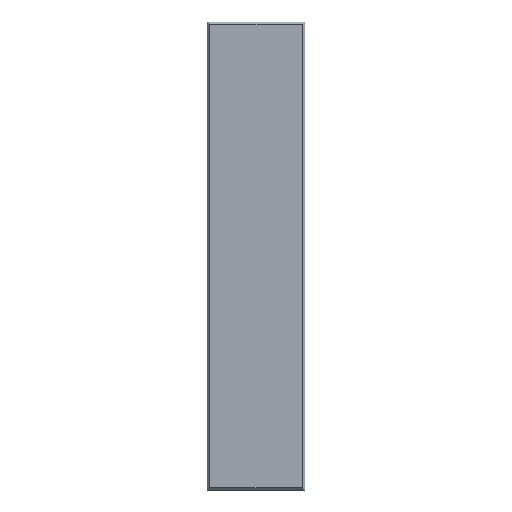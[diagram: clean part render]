
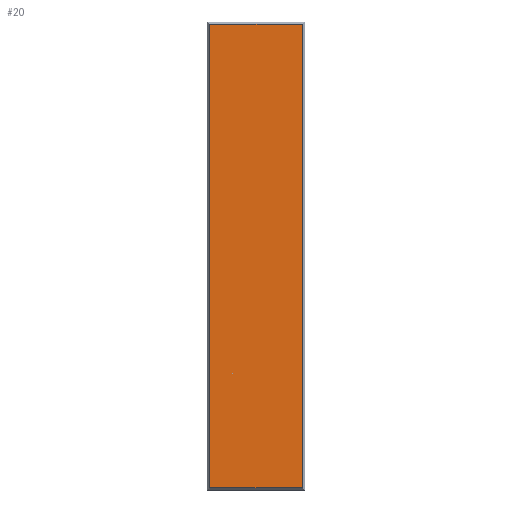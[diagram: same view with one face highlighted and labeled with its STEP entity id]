
A CAD part, front view. The second image highlights one B-rep face of the part: STEP entity #20.
In plain terms, the highlighted planar face has unit normal (0, -1, 0).
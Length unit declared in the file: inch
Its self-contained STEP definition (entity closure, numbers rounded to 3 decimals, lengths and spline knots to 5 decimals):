
#20=ADVANCED_FACE('',(#30),#142,.T.);
#30=FACE_OUTER_BOUND('',#40,.T.);
#40=EDGE_LOOP('',(#68,#69,#70,#71));
#68=ORIENTED_EDGE('',*,*,#84,.F.);
#69=ORIENTED_EDGE('',*,*,#95,.F.);
#70=ORIENTED_EDGE('',*,*,#91,.F.);
#71=ORIENTED_EDGE('',*,*,#88,.F.);
#84=EDGE_CURVE('',#124,#125,#104,.T.);
#88=EDGE_CURVE('',#125,#128,#108,.T.);
#91=EDGE_CURVE('',#128,#130,#111,.T.);
#95=EDGE_CURVE('',#130,#124,#115,.T.);
#104=B_SPLINE_CURVE_WITH_KNOTS('',1,(#285,#286),.UNSPECIFIED.,.F.,.F.,(2,
2),(0.,47.5),.UNSPECIFIED.);
#108=B_SPLINE_CURVE_WITH_KNOTS('',1,(#293,#294),.UNSPECIFIED.,.F.,.F.,(2,
2),(0.,9.5),.UNSPECIFIED.);
#111=B_SPLINE_CURVE_WITH_KNOTS('',1,(#299,#300),.UNSPECIFIED.,.F.,.F.,(2,
2),(0.,47.5),.UNSPECIFIED.);
#115=B_SPLINE_CURVE_WITH_KNOTS('',1,(#307,#308),.UNSPECIFIED.,.F.,.F.,(2,
2),(0.,9.5),.UNSPECIFIED.);
#124=VERTEX_POINT('',#273);
#125=VERTEX_POINT('',#274);
#128=VERTEX_POINT('',#277);
#130=VERTEX_POINT('',#279);
#142=PLANE('',#243);
#243=AXIS2_PLACEMENT_3D('',#269,#256,$);
#256=DIRECTION('',(0.,-1.,0.));
#269=CARTESIAN_POINT('',(-5.70472,-0.5,28.50472));
#273=CARTESIAN_POINT('',(-4.75,-0.5,-23.75));
#274=CARTESIAN_POINT('',(-4.75,-0.5,23.75));
#277=CARTESIAN_POINT('',(4.75,-0.5,23.75));
#279=CARTESIAN_POINT('',(4.75,-0.5,-23.75));
#285=CARTESIAN_POINT('',(-4.75,-0.5,-23.75));
#286=CARTESIAN_POINT('',(-4.75,-0.5,23.75));
#293=CARTESIAN_POINT('',(-4.75,-0.5,23.75));
#294=CARTESIAN_POINT('',(4.75,-0.5,23.75));
#299=CARTESIAN_POINT('',(4.75,-0.5,23.75));
#300=CARTESIAN_POINT('',(4.75,-0.5,-23.75));
#307=CARTESIAN_POINT('',(4.75,-0.5,-23.75));
#308=CARTESIAN_POINT('',(-4.75,-0.5,-23.75));
